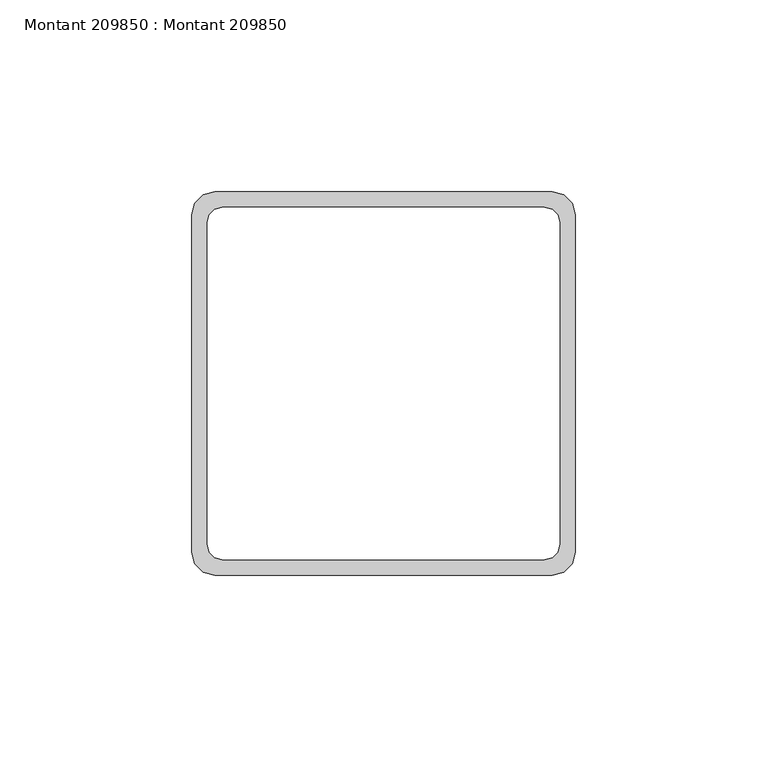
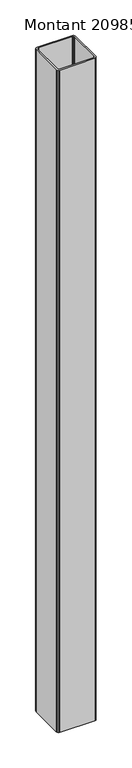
"""IFC4 building model written with IfcOpenShell, lengths in millimetres: beam geometry, Montant 209850 : Montant 209850."""

from ifc_helpers import new_model, si_unit, frame, origin, place, context, project, spatial, polyline, outline, extrude, source, transform, mapped, element, save


def montant_209850_montant_209850_6c07ae54(model_context):
    return source(origin(), model_context, "Body", "SweptSolid", [
        extrude(outline(polyline([(14845.9999999, -34333.5), (14842.9999999, -34332.6961524), (14840.8038474, -34330.5), (14839.9999999, -34327.5), (14839.9999999, -34239.5), (14840.8038474, -34236.5), (14842.9999999, -34234.3038476), (14845.9999999, -34233.5), (14933.9999999, -34233.5), (14936.9999999, -34234.3038476), (14939.1961523, -34236.5), (14939.9999999, -34239.5), (14939.9999999, -34327.5), (14939.1961523, -34330.5), (14936.9999999, -34332.6961524), (14933.9999999, -34333.5), (14845.9999999, -34333.5)]), holes=[polyline([(14931.9999999, -34329.5), (14933.9999999, -34328.9641016), (14935.4641015, -34327.5), (14935.9999999, -34325.5), (14935.9999999, -34241.5), (14935.4641015, -34239.5), (14933.9999999, -34238.0358984), (14931.9999999, -34237.5), (14847.9999999, -34237.5), (14845.9999999, -34238.0358984), (14844.5358983, -34239.5), (14843.9999999, -34241.5), (14843.9999999, -34325.5), (14844.5358983, -34327.5), (14845.9999999, -34328.9641016), (14847.9999999, -34329.5), (14931.9999999, -34329.5)])]), frame((0.0, 0.0, 8550.0), z_axis=(0.0, 0.0, 1.0), x_axis=(1.0, 0.0, 0.0)), (0.0, 0.0, 1.0), 1765.0),
    ])


if __name__ == "__main__":
    model = new_model("IFC4")
    model_context = context("Model", 3, world=origin())
    ifc_project = project(units=[si_unit("LENGTHUNIT", "METRE", prefix="MILLI")], contexts=[model_context])
    site = spatial("IfcSite", under=ifc_project)
    building = spatial("IfcBuilding", under=site)
    placement = place(None, origin())
    montant_209850_montant_209850_shape = montant_209850_montant_209850_6c07ae54(model_context)
    element("IfcBeam", 1, ObjectType="Montant 209850 : Montant 209850", at=placement, inside=building, context=model_context, shape_type="MappedRepresentation", body=[
        mapped(montant_209850_montant_209850_shape, transform((0.0, 0.0, 0.0), x_axis=(1.0, 0.0, 0.0), y_axis=(0.0, 1.0, 0.0), z_axis=(0.0, 0.0, 1.0))),
    ])
    save(model, "model.ifc")
